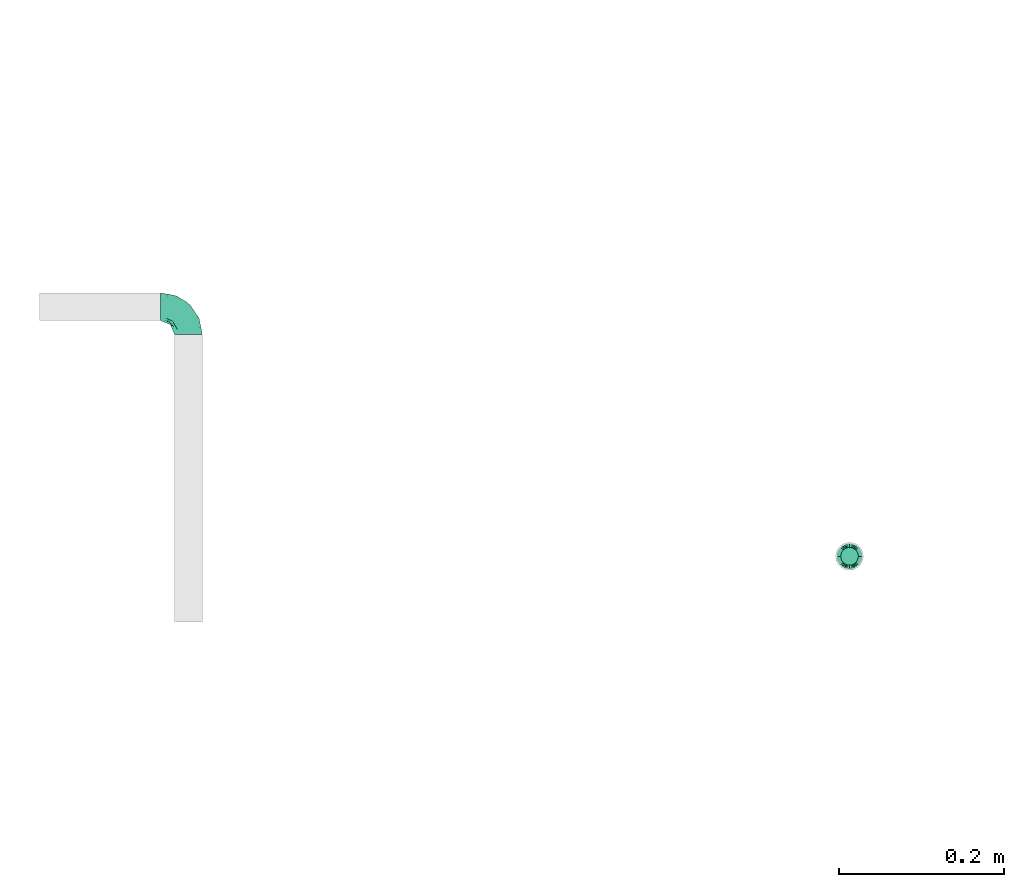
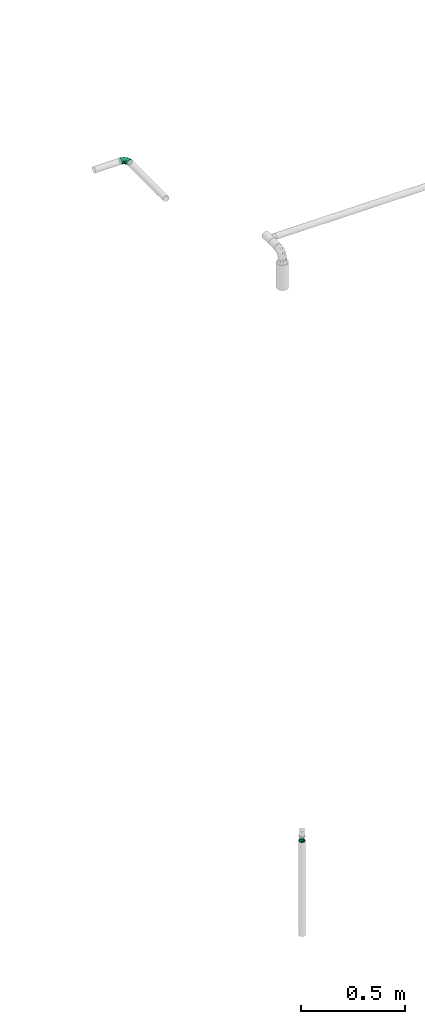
# One storey, part 33 of 63: 2 flow fittings.
"""IFC2X3 building model written with IfcOpenShell, lengths in millimetres."""

import ifcopenshell
import ifcopenshell.guid

model = None  # the IFC model being written
_history = None  # IfcOwnerHistory: only IFC2X3 demands one
_inside = {}  # id of a spatial element -> (the spatial element, [elements in it])
_under = {}  # id of a project, library or spatial element -> (it, [spatial elements below it])
_declared = {}  # id of a project -> (the project, [libraries it declares])
_typed = {}  # id of a type object -> (the type object, [elements of that type])
_made_of = {}  # id of a material, layer set ... -> (it, [elements and type objects made of it])


def new_model(schema):
    """Start an empty IFC model of exactly this schema.

    Asked for "IFC4X3", IfcOpenShell would pick the latest addendum, in which some entities
    have other attributes; the version numbers below select the first issue.
    IFC2X3 requires an IfcOwnerHistory on every rooted entity: one is made here for all.
    """
    global model, _history
    if schema == "IFC4X3":
        model = ifcopenshell.file(schema_version=(4, 3, 0, 0))
    else:
        model = ifcopenshell.file(schema=schema)
    _inside.clear()
    _under.clear()
    _declared.clear()
    _typed.clear()
    _made_of.clear()
    _history = None
    if model.schema == "IFC2X3":
        org = make("IfcOrganization", Name="unknown")
        user = make(
            "IfcPersonAndOrganization",
            ThePerson=make("IfcPerson", FamilyName="unknown"),
            TheOrganization=org,
        )
        app = make(
            "IfcApplication",
            ApplicationDeveloper=org,
            Version="unknown",
            ApplicationFullName="unknown",
            ApplicationIdentifier="unknown",
        )
        _history = make(
            "IfcOwnerHistory",
            OwningUser=user,
            OwningApplication=app,
            ChangeAction="ADDED",
            CreationDate=0,
        )
    return model


def make(cls, **values):
    """One entity of the class cls with the attributes given. An attribute that is None is left unset."""
    return model.create_entity(
        cls, **{name: value for name, value in values.items() if value is not None}
    )


def entity(cls, *values):
    """Any entity or typed value of the class cls, its attributes in the order of the schema. None: left unset."""
    e = model.create_entity(cls)
    for i, value in enumerate(values):
        if value is not None:
            e[i] = value
    return e


def rooted(cls, **values):
    """An entity with a GlobalId (a new one), such as an element, a storey or a relation."""
    return make(cls, GlobalId=ifcopenshell.guid.new(), OwnerHistory=_history, **values)


def si_unit(unit_type, name, prefix=None):
    """IfcSIUnit, for example si_unit("LENGTHUNIT", "METRE", prefix="MILLI")."""
    return make("IfcSIUnit", UnitType=unit_type, Prefix=prefix, Name=name)


def converted_unit(unit_type, name, factor, base, dimensions=None, offset=None):
    """IfcConversionBasedUnit, such as the inch: factor (a typed value) times the base unit."""
    return make(
        "IfcConversionBasedUnit"
        if offset is None
        else "IfcConversionBasedUnitWithOffset",
        ConversionOffset=offset,
        Dimensions=None
        if dimensions is None
        else entity("IfcDimensionalExponents", *dimensions),
        UnitType=unit_type,
        Name=name,
        ConversionFactor=make(
            "IfcMeasureWithUnit", ValueComponent=factor, UnitComponent=base
        ),
    )


def derived_unit(unit_type, elements):
    """IfcDerivedUnit: a product of units, each with its exponent."""
    return make(
        "IfcDerivedUnit",
        Elements=[
            make("IfcDerivedUnitElement", Unit=unit, Exponent=power)
            for unit, power in elements
        ],
        UnitType=unit_type,
    )


def assignment(units):
    """IfcUnitAssignment: the units of a project."""
    return None if units is None else make("IfcUnitAssignment", Units=units)


def point(xyz):
    """IfcCartesianPoint."""
    return None if xyz is None else make("IfcCartesianPoint", Coordinates=xyz)


def direction(xyz):
    """IfcDirection."""
    return None if xyz is None else make("IfcDirection", DirectionRatios=xyz)


def frame(location, z_axis=None, x_axis=None):
    """IfcAxis2Placement3D, a coordinate frame: its origin and axes. An axis left out is left unset."""
    return make(
        "IfcAxis2Placement3D",
        Location=point(location),
        Axis=direction(z_axis),
        RefDirection=direction(x_axis),
    )


def origin_with_axes():
    """The frame at (0, 0, 0) with the z axis (0, 0, 1) and the x axis (1, 0, 0) written out."""
    return frame((0.0, 0.0, 0.0), z_axis=(0.0, 0.0, 1.0), x_axis=(1.0, 0.0, 0.0))


def place(relative_to, where):
    """IfcLocalPlacement: puts the frame where relative to a parent placement (None: the world)."""
    return make(
        "IfcLocalPlacement", PlacementRelTo=relative_to, RelativePlacement=where
    )


def context(
    kind, dimensions, precision=None, world=None, true_north=None, identifier=None
):
    """IfcGeometricRepresentationContext, for example the 3D "Model" context."""
    return make(
        "IfcGeometricRepresentationContext",
        ContextIdentifier=identifier,
        ContextType=kind,
        CoordinateSpaceDimension=dimensions,
        Precision=precision,
        WorldCoordinateSystem=world,
        TrueNorth=true_north,
    )


def subcontext(parent, identifier, kind, view, scale=None):
    """IfcGeometricRepresentationSubContext, for example "Body" below "Model"."""
    return make(
        "IfcGeometricRepresentationSubContext",
        ContextIdentifier=identifier,
        ContextType=kind,
        ParentContext=parent,
        TargetScale=scale,
        TargetView=view,
    )


def project(units=None, contexts=None):
    """IfcProject with its units and contexts."""
    return rooted(
        "IfcProject",
        Name="project",
        RepresentationContexts=contexts,
        UnitsInContext=assignment(units),
    )


def spatial(cls, under=None, at=None, **own):
    """A site, building, storey or space (cls), placed at a placement, below another one or the project."""
    s = rooted(cls, ObjectPlacement=at, **own)
    if under is not None:
        _under.setdefault(under.id(), (under, []))[1].append(s)
    return s


def faces_of(points, faces, orient=None, outer=None):
    """IfcFace entities. A face is a list of loops; a loop is a list of indices into points, from 0.

    orient and outer hold one flag for each loop. By default every Orientation is true, the
    first loop of a face is its IfcFaceOuterBound and the others are IfcFaceBound.
    """
    made = []
    for i, loops in enumerate(faces):
        bounds = []
        for j, loop in enumerate(loops):
            is_outer = j == 0 if outer is None else outer[i][j]
            bounds.append(
                make(
                    "IfcFaceOuterBound" if is_outer else "IfcFaceBound",
                    Bound=make("IfcPolyLoop", Polygon=[points[k] for k in loop]),
                    Orientation=True if orient is None else orient[i][j],
                )
            )
        made.append(make("IfcFace", Bounds=bounds))
    return made


def open_shell(faces, orient=None, outer=None):
    """The faces of one IfcOpenShell. surface_model builds it on its shared points."""
    return ("IfcOpenShell", faces, orient, outer)


def surface_model(cls, points, shells):
    """IfcFaceBasedSurfaceModel or IfcShellBasedSurfaceModel (cls): surfaces that need not close."""
    shared = [point(p) for p in points]
    made = [make(c, CfsFaces=faces_of(shared, fs, o, b)) for c, fs, o, b in shells]
    if cls == "IfcFaceBasedSurfaceModel":
        return make(cls, FbsmFaces=made)
    return make(cls, SbsmBoundary=made)


def shape(context_of_items, identifier, shape_type, items):
    """IfcShapeRepresentation: the items that make up one representation, for example the "Body"."""
    return make(
        "IfcShapeRepresentation",
        ContextOfItems=context_of_items,
        RepresentationIdentifier=identifier,
        RepresentationType=shape_type,
        Items=items,
    )


def source(mapping_origin, context_of_items, identifier, shape_type, items):
    """IfcRepresentationMap: a shape defined once, which mapped items show again and again."""
    return make(
        "IfcRepresentationMap",
        MappingOrigin=mapping_origin,
        MappedRepresentation=shape(context_of_items, identifier, shape_type, items),
    )


def transform(
    local_origin,
    x_axis=None,
    y_axis=None,
    z_axis=None,
    scale=None,
    scale2=None,
    scale3=None,
    uniform=True,
):
    """IfcCartesianTransformationOperator3D, or its non-uniform kind. x_axis, y_axis, z_axis: its Axis1, 2, 3."""
    if uniform:
        return make(
            "IfcCartesianTransformationOperator3D",
            Axis1=direction(x_axis),
            Axis2=direction(y_axis),
            LocalOrigin=point(local_origin),
            Scale=scale,
            Axis3=direction(z_axis),
        )
    return make(
        "IfcCartesianTransformationOperator3DnonUniform",
        Axis1=direction(x_axis),
        Axis2=direction(y_axis),
        LocalOrigin=point(local_origin),
        Scale=scale,
        Axis3=direction(z_axis),
        Scale2=scale2,
        Scale3=scale3,
    )


def mapped(mapping_source, mapping_target):
    """IfcMappedItem: shows the shape of a source again, moved by a transform."""
    return make(
        "IfcMappedItem", MappingSource=mapping_source, MappingTarget=mapping_target
    )


def made_of(thing, what):
    """Note that an element or type object is made of a material, layer set ...; save() writes the relation."""
    if what is not None:
        _made_of.setdefault(what.id(), (what, []))[1].append(thing)
    return thing


def type_object(cls, material=None, **own):
    """A type object (cls), such as IfcWallType, which elements share."""
    return made_of(rooted(cls, **own), material)


def element(
    cls,
    number,
    at=None,
    inside=None,
    cuts=None,
    type_object=None,
    material=None,
    context=None,
    identifier="Body",
    shape_type=None,
    held_by="IfcProductDefinitionShape",
    body=None,
    shapes=None,
    **own,
):
    """One element of the class cls, such as IfcWall. Its Tag is "e" and its number.

    at: its placement. inside: the storey or other place that contains it. cuts: it is an
    opening in that element (IfcRelVoidsElement). A single representation is given by context,
    identifier, shape_type and body (its items); several are given by shapes. held_by: the class
    of the entity that holds the representations. save() writes the other relations.
    """
    e = rooted(cls, Tag="e%d" % number, ObjectPlacement=at, **own)
    if body is not None:
        shapes = [shape(context, identifier, shape_type, body)]
    if shapes is not None:
        e.Representation = make(held_by, Representations=shapes)
    if inside is not None:
        _inside.setdefault(inside.id(), (inside, []))[1].append(e)
    if cuts is not None:
        rooted(
            "IfcRelVoidsElement", RelatingBuildingElement=cuts, RelatedOpeningElement=e
        )
    if type_object is not None:
        _typed.setdefault(type_object.id(), (type_object, []))[1].append(e)
    return made_of(e, material)


def aggregate(whole, parts):
    """IfcRelAggregates: a whole, such as a stair, and the parts it consists of."""
    return rooted("IfcRelAggregates", RelatingObject=whole, RelatedObjects=parts)


def save(model, path):
    """Write the relations noted so far, then the file.

    IfcRelAggregates (storeys below a building ...), IfcRelContainedInSpatialStructure (elements
    in a storey), IfcRelDefinesByType, IfcRelAssociatesMaterial and IfcRelDeclares: one each for
    every whole, place, type object, material and project.
    """
    for whole, parts in _under.values():
        aggregate(whole, parts)
    for where, things in _inside.values():
        rooted(
            "IfcRelContainedInSpatialStructure",
            RelatedElements=things,
            RelatingStructure=where,
        )
    for kind, things in _typed.values():
        rooted("IfcRelDefinesByType", RelatedObjects=things, RelatingType=kind)
    for what, things in _made_of.values():
        rooted("IfcRelAssociatesMaterial", RelatedObjects=things, RelatingMaterial=what)
    for by, libraries in _declared.values():
        rooted("IfcRelDeclares", RelatingContext=by, RelatedDefinitions=libraries)
    model.write(path)


model = new_model("IFC2X3")

# Units and contexts
model_context = context("Model", 3, precision=0.01, world=frame((0.0, 4.29681676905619e-09, 0.0)), true_north=direction((4.01073788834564e-13, 1.0)))
plan_context = context("Plan", 3, precision=0.01, world=frame((0.0, 4.29681676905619e-09, 0.0)), true_north=direction((4.01073788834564e-13, 1.0)))
body_context = subcontext(model_context, "Body", "Model", "MODEL_VIEW")
ifc_project = project(units=[converted_unit("PLANEANGLEUNIT", "DEGREE", entity("IfcPositiveLengthMeasure", 0.0174532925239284), si_unit("PLANEANGLEUNIT", "RADIAN"), dimensions=[0, 0, 0, 0, 0, 0, 0]), si_unit("AREAUNIT", "SQUARE_METRE"), si_unit("LENGTHUNIT", "METRE", prefix="MILLI"), si_unit("MASSUNIT", "GRAM", prefix="KILO"), si_unit("POWERUNIT", "WATT"), si_unit("PRESSUREUNIT", "PASCAL", prefix="KILO"), si_unit("FORCEUNIT", "NEWTON", prefix="KILO"), si_unit("ELECTRICVOLTAGEUNIT", "VOLT"), si_unit("ELECTRICCURRENTUNIT", "AMPERE"), si_unit("THERMODYNAMICTEMPERATUREUNIT", "DEGREE_CELSIUS"), si_unit("TIMEUNIT", "SECOND"), si_unit("VOLUMEUNIT", "CUBIC_METRE"), derived_unit("LINEARVELOCITYUNIT", [(si_unit("LENGTHUNIT", "METRE"), 1), (si_unit("TIMEUNIT", "SECOND"), -1)]), derived_unit("VOLUMETRICFLOWRATEUNIT", [(si_unit("VOLUMEUNIT", "CUBIC_METRE"), 1), (si_unit("TIMEUNIT", "SECOND"), -1)]), derived_unit("THERMALTRANSMITTANCEUNIT", [(si_unit("POWERUNIT", "WATT"), 1), (si_unit("THERMODYNAMICTEMPERATUREUNIT", "KELVIN"), -1), (si_unit("AREAUNIT", "SQUARE_METRE"), -1)]), derived_unit("SOUNDPRESSUREUNIT", [(si_unit("PRESSUREUNIT", "PASCAL"), 1)])], contexts=[model_context, plan_context])

# Site, building, storey
site_placement = place(None, frame((0.0, -4.29681676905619e-09, 0.0), z_axis=(0.0, 0.0, 1.0), x_axis=(1.0, 0.0, 0.0)))
site = spatial("IfcSite", under=ifc_project, at=site_placement, CompositionType="ELEMENT")
building_placement = place(site_placement, frame((0.0, 4.29681676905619e-09, 0.0), z_axis=(0.0, 0.0, 1.0), x_axis=(1.0, 0.0, 0.0)))
building = spatial("IfcBuilding", under=site, at=building_placement, Name="mc-building", CompositionType="ELEMENT")
storey_placement = place(building_placement, frame((0.0, 0.0, 207370.0), z_axis=(0.0, 0.0, 1.0), x_axis=(1.0, 0.0, 0.0)))
storey = spatial("IfcBuildingStorey", under=building, at=storey_placement, Name="Nivå E", CompositionType="ELEMENT", Elevation=207370.0)

# Flow fittings
pipe_fitting_type_1 = type_object("IfcPipeFittingType", Name="magi_pipe_fe_reducer_centric_short_NOR", PredefinedType="TRANSITION")
shared_shape_1 = source(origin_with_axes(), body_context, "Body", "SurfaceModel", [
    surface_model("IfcShellBasedSurfaceModel", [(14.4, 5.35, -9.26647), (14.4, 0.0, -10.7), (14.4, 2.76936, -10.33541), (14.4, 10.33541, -2.76936), (14.4, 7.56604, -7.56604), (14.4, -10.33541, -2.76936), (14.4, 9.26647, -5.35), (14.4, 0.0, 10.7), (14.4, -5.35, -9.26647), (14.4, -2.76936, -10.33541), (14.4, -7.56604, -7.56604), (14.4, -9.26647, -5.35), (14.4, 10.7, 0.0), (14.4, 10.33541, 2.76936), (14.4, 9.26647, 5.35), (14.4, 7.56604, 7.56604), (14.4, 2.76936, 10.33541), (14.4, 5.35, 9.26647), (14.4, -10.33541, 2.76936), (14.4, -7.56604, 7.56604), (14.4, -9.26647, 5.35), (14.4, -10.7, 0.0), (14.4, -2.76936, 10.33541), (14.4, -5.35, 9.26647), (12.4, 2.76936, 10.33541), (12.4, -10.33541, -2.76936), (12.4, 0.0, 10.7), (12.4, 5.35, 9.26647), (12.4, 7.56604, 7.56604), (12.4, 9.26647, 5.35), (12.4, 10.33541, 2.76936), (12.4, -10.33541, 2.76936), (12.4, -2.76936, 10.33541), (12.4, -7.56604, 7.56604), (12.4, -5.35, 9.26647), (12.4, -9.26647, 5.35), (12.4, -10.7, 0.0), (12.4, 10.33541, -2.76936), (12.4, 5.35, -9.26647), (12.4, 9.26647, -5.35), (12.4, 7.56604, -7.56604), (12.4, 2.76936, -10.33541), (12.4, -9.26647, -5.35), (12.4, -5.35, -9.26647), (12.4, -7.56604, -7.56604), (12.4, 0.0, -10.7), (12.4, -2.76936, -10.33541), (12.4, 10.7, 0.0), (-2.0, 11.9501, 11.9501), (-2.0, 0.0, 16.9), (-2.0, 4.37404, 16.32415), (-2.0, 8.45, 14.63583), (-2.0, 14.63583, 8.45), (-2.0, 16.32415, 4.37404), (-2.0, -16.32415, 4.37404), (-2.0, -8.45, 14.63583), (-2.0, -14.63583, 8.45), (-2.0, -11.9501, 11.9501), (-2.0, -4.37404, 16.32415), (-2.0, -16.32415, -4.37404), (-2.0, -16.9, 0.0), (-2.0, -8.45, -14.63583), (-2.0, 16.32415, -4.37404), (-2.0, 11.9501, -11.9501), (-2.0, 14.63583, -8.45), (-2.0, 8.45, -14.63583), (-2.0, 4.37404, -16.32415), (-2.0, 0.0, -16.9), (-2.0, -11.9501, -11.9501), (-2.0, -14.63583, -8.45), (-2.0, -4.37404, -16.32415), (-2.0, 16.9, 0.0), (0.0, 4.37404, -16.32415), (0.0, 8.45, -14.63583), (0.0, 11.9501, -11.9501), (0.0, 0.0, -16.9), (0.0, 16.32415, -4.37404), (0.0, 16.32415, 4.37404), (0.0, 14.63583, -8.45), (0.0, -8.45, -14.63583), (0.0, -4.37404, -16.32415), (0.0, -11.9501, -11.9501), (0.0, -16.32415, -4.37404), (0.0, -14.63583, -8.45), (0.0, -16.32415, 4.37404), (0.0, 16.9, 0.0), (0.0, 14.63583, 8.45), (0.0, 11.9501, 11.9501), (0.0, 4.37404, 16.32415), (0.0, 8.45, 14.63583), (0.0, 0.0, 16.9), (0.0, -14.63583, 8.45), (0.0, -16.9, 0.0), (0.0, -8.45, 14.63583), (0.0, -11.9501, 11.9501), (0.0, -4.37404, 16.32415), (12.4, 9.3625, -2.31662), (0.0, 14.42505, -5.97505), (0.0, 15.66253, -2.98753), (12.4, -6.6875, -6.94985), (0.0, -13.18758, -8.96258), (0.0, 2.98753, -15.66253), (12.4, 0.0, -9.26647), (12.4, 6.6875, -6.94985), (0.0, 8.96258, -13.18758), (12.4, -9.3625, -2.31662), (0.0, -15.66253, -2.98753), (0.0, -14.42505, -5.97505), (0.0, 5.97505, -14.42505), (0.0, -2.98753, -15.66253), (0.0, -8.96258, -13.18758), (0.0, 13.18758, -8.96258), (12.4, 8.025, -4.63324), (12.4, -2.675, -9.26647), (12.4, 2.675, -9.26647), (0.0, -5.97505, -14.42505), (12.4, -8.025, -4.63324), (12.4, -9.3625, 2.31662), (0.0, -14.42505, 5.97505), (0.0, -15.66253, 2.98753), (12.4, 6.6875, 6.94985), (0.0, 13.18758, 8.96258), (0.0, -2.98753, 15.66253), (12.4, 0.0, 9.26647), (12.4, -6.6875, 6.94985), (0.0, -8.96258, 13.18758), (12.4, 9.3625, 2.31662), (0.0, 15.66253, 2.98753), (0.0, 14.42505, 5.97505), (0.0, -5.97505, 14.42505), (0.0, 2.98753, 15.66253), (0.0, 8.96258, 13.18758), (0.0, -13.18758, 8.96258), (12.4, -8.025, 4.63324), (12.4, 2.675, 9.26647), (12.4, -2.675, 9.26647), (0.0, 5.97505, 14.42505), (12.4, 8.025, 4.63324)], [open_shell([[[0, 1, 2]], [[3, 0, 4]], [[5, 0, 3]], [[3, 4, 6]], [[7, 5, 3]], [[1, 8, 9]], [[1, 0, 8]], [[10, 5, 11]], [[5, 10, 8]], [[0, 5, 8]], [[3, 12, 13]], [[13, 14, 15]], [[13, 15, 16]], [[7, 3, 16]], [[16, 15, 17]], [[7, 18, 5]], [[18, 19, 20]], [[21, 5, 18]], [[19, 22, 23]], [[22, 19, 18]], [[7, 22, 18]], [[13, 16, 3]], [[24, 25, 26]], [[27, 25, 24]], [[28, 29, 30]], [[28, 25, 27]], [[31, 26, 25]], [[32, 33, 34]], [[33, 32, 31]], [[33, 31, 35]], [[32, 26, 31]], [[31, 25, 36]], [[30, 37, 28]], [[25, 28, 37]], [[38, 37, 39]], [[37, 38, 25]], [[38, 39, 40]], [[41, 25, 38]], [[42, 43, 44]], [[43, 42, 25]], [[43, 45, 46]], [[43, 25, 41]], [[41, 45, 43]], [[37, 30, 47]], [[25, 5, 36]], [[42, 11, 25]], [[8, 44, 43]], [[42, 44, 10]], [[9, 43, 46]], [[25, 11, 5]], [[5, 21, 36]], [[9, 8, 43]], [[10, 44, 8]], [[10, 11, 42]], [[1, 9, 46]], [[46, 45, 1]], [[41, 2, 45]], [[38, 0, 41]], [[6, 40, 39]], [[38, 40, 4]], [[3, 39, 37]], [[38, 4, 0]], [[0, 2, 41]], [[12, 3, 37]], [[6, 39, 3]], [[6, 4, 40]], [[47, 12, 37]], [[45, 2, 1]], [[30, 13, 47]], [[29, 14, 30]], [[17, 28, 27]], [[29, 28, 15]], [[16, 27, 24]], [[30, 14, 13]], [[13, 12, 47]], [[16, 17, 27]], [[15, 28, 17]], [[15, 14, 29]], [[7, 16, 24]], [[24, 26, 7]], [[32, 22, 26]], [[34, 23, 32]], [[20, 33, 35]], [[34, 33, 19]], [[18, 35, 31]], [[34, 19, 23]], [[23, 22, 32]], [[21, 18, 31]], [[20, 35, 18]], [[20, 19, 33]], [[36, 21, 31]], [[26, 22, 7]], [[48, 49, 50]], [[48, 50, 51]], [[48, 52, 53]], [[48, 53, 49]], [[49, 53, 54]], [[55, 56, 57]], [[55, 58, 49]], [[56, 55, 49]], [[49, 54, 56]], [[54, 59, 60]], [[54, 53, 61]], [[53, 62, 63]], [[63, 62, 64]], [[63, 65, 66]], [[61, 53, 63]], [[67, 63, 66]], [[59, 68, 69]], [[68, 59, 61]], [[61, 67, 70]], [[59, 54, 61]], [[63, 67, 61]], [[53, 71, 62]], [[72, 73, 74]], [[75, 72, 74]], [[74, 76, 77]], [[76, 74, 78]], [[74, 77, 79]], [[75, 79, 80]], [[75, 74, 79]], [[81, 82, 83]], [[82, 81, 79]], [[79, 84, 82]], [[77, 76, 85]], [[77, 86, 87]], [[77, 87, 88]], [[88, 84, 79]], [[88, 87, 89]], [[84, 88, 90]], [[90, 91, 84]], [[92, 82, 84]], [[91, 93, 94]], [[91, 90, 93]], [[93, 90, 95]], [[79, 77, 88]], [[59, 82, 60]], [[69, 83, 59]], [[79, 68, 61]], [[69, 68, 81]], [[80, 61, 70]], [[59, 83, 82]], [[82, 92, 60]], [[80, 79, 61]], [[81, 68, 79]], [[81, 83, 69]], [[75, 80, 70]], [[70, 67, 75]], [[66, 72, 67]], [[65, 73, 66]], [[78, 63, 64]], [[65, 63, 74]], [[76, 64, 62]], [[65, 74, 73]], [[73, 72, 66]], [[85, 76, 62]], [[78, 64, 76]], [[78, 74, 63]], [[71, 85, 62]], [[67, 72, 75]], [[53, 77, 71]], [[52, 86, 53]], [[89, 48, 51]], [[52, 48, 87]], [[88, 51, 50]], [[53, 86, 77]], [[77, 85, 71]], [[88, 89, 51]], [[87, 48, 89]], [[87, 86, 52]], [[90, 88, 50]], [[50, 49, 90]], [[58, 95, 49]], [[55, 93, 58]], [[91, 57, 56]], [[55, 57, 94]], [[84, 56, 54]], [[55, 94, 93]], [[93, 95, 58]], [[92, 84, 54]], [[91, 56, 84]], [[91, 94, 57]], [[60, 92, 54]], [[49, 95, 90]], [[27, 34, 47]], [[47, 34, 43]], [[43, 38, 47]], [[43, 34, 36]], [[90, 87, 94]], [[92, 94, 87]], [[87, 74, 92]], [[75, 92, 74]], [[81, 92, 75]], [[74, 87, 85]], [[96, 97, 98]], [[81, 99, 100]], [[101, 102, 75]], [[98, 85, 47]], [[74, 103, 104]], [[104, 103, 38]], [[105, 106, 107]], [[38, 108, 104]], [[102, 109, 75]], [[110, 99, 81]], [[47, 96, 98]], [[103, 111, 112]], [[109, 102, 113]], [[36, 92, 106]], [[102, 101, 114]], [[110, 115, 43]], [[96, 112, 97]], [[107, 116, 105]], [[36, 106, 105]], [[113, 115, 109]], [[43, 115, 113]], [[116, 107, 100]], [[108, 38, 114]], [[111, 103, 74]], [[111, 97, 112]], [[99, 110, 43]], [[116, 100, 99]], [[101, 108, 114]], [[117, 118, 119]], [[87, 120, 121]], [[122, 123, 90]], [[119, 92, 36]], [[94, 124, 125]], [[125, 124, 34]], [[126, 127, 128]], [[34, 129, 125]], [[123, 130, 90]], [[131, 120, 87]], [[36, 117, 119]], [[124, 132, 133]], [[130, 123, 134]], [[47, 85, 127]], [[123, 122, 135]], [[131, 136, 27]], [[117, 133, 118]], [[128, 137, 126]], [[47, 127, 126]], [[134, 136, 130]], [[27, 136, 134]], [[137, 128, 121]], [[129, 34, 135]], [[132, 124, 94]], [[132, 118, 133]], [[120, 131, 27]], [[137, 121, 120]], [[122, 129, 135]]])]),
])
flow_fitting_1_placement = place(storey_placement, frame((717018.09202, 441297.3941, 3018.36794), z_axis=(0.0, -1.0, 0.0), x_axis=(0.0, 0.0, 1.0)))
element("IfcFlowFitting", 1, at=flow_fitting_1_placement, inside=storey, type_object=pipe_fitting_type_1, Name="magi_pipe_fe_reducer_centric_short_NOR", context=body_context, shape_type="MappedRepresentation", body=[
    mapped(shared_shape_1, transform((0.0, 0.0, 0.0), scale=1.0)),
])
pipe_fitting_type_2 = type_object("IfcPipeFittingType", Name="magi_pipe_fe_elbow_short_001", PredefinedType="BEND")
shared_shape_2 = source(origin_with_axes(), body_context, "Body", "SurfaceModel", [
    surface_model("IfcShellBasedSurfaceModel", [(-33.8, 8.45, -14.63583), (-33.8, 4.37404, -16.32415), (-33.8, 11.9501, -11.9501), (-33.8, -11.9501, -11.9501), (-33.8, -14.63583, -8.45), (-33.8, -8.45, -14.63583), (-33.8, 0.0, -16.9), (-33.8, -4.37404, -16.32415), (-33.8, -4.37404, 16.32415), (-33.8, 0.0, 16.9), (-33.8, -8.45, 14.63583), (-33.8, 16.32415, -4.37404), (-33.8, 14.63583, -8.45), (-33.8, -16.32415, -4.37404), (-33.8, -16.9, 0.0), (-33.8, -16.32415, 4.37404), (-33.8, 11.9501, 11.9501), (-33.8, 14.63583, 8.45), (-33.8, 16.32415, 4.37404), (-33.8, 4.37404, 16.32415), (-33.8, 8.45, 14.63583), (-33.8, -14.63583, 8.45), (-33.8, -11.9501, 11.9501), (-33.8, 16.9, 0.0), (-11.9501, 33.8, -11.9501), (0.0, 33.8, -16.9), (-4.37404, 33.8, -16.32415), (-8.45, 33.8, -14.63583), (-14.63583, 33.8, -8.45), (-16.32415, 33.8, -4.37404), (14.63583, 33.8, -8.45), (8.45, 33.8, 14.63583), (16.32415, 33.8, -4.37404), (8.45, 33.8, -14.63583), (11.9501, 33.8, -11.9501), (4.37404, 33.8, -16.32415), (16.32415, 33.8, 4.37404), (16.9, 33.8, 0.0), (-11.9501, 33.8, 11.9501), (-16.32415, 33.8, 4.37404), (-14.63583, 33.8, 8.45), (-8.45, 33.8, 14.63583), (-4.37404, 33.8, 16.32415), (11.9501, 33.8, 11.9501), (14.63583, 33.8, 8.45), (0.0, 33.8, 16.9), (4.37404, 33.8, 16.32415), (-16.9, 33.8, 0.0), (-24.79389, -13.12945, 9.48721), (-22.19287, -9.75018, 12.59315), (-24.09897, -14.97035, 0.0), (-14.93934, -10.76256, 8.5297), (-22.46095, -14.75051, 5.27077), (14.75051, 22.46094, 5.27077), (11.9251, 13.23888, 4.33236), (13.04069, 14.39795, 0.0), (7.71387, 13.68847, 11.55891), (9.75018, 22.19287, 12.59315), (4.10169, 13.0571, 14.04018), (-24.84007, -6.39063, 15.2048), (-25.81779, -2.23879, 16.61097), (-23.66549, 2.59054, 16.87119), (-26.50418, 14.06512, 11.08152), (-24.21253, 17.66365, 7.72657), (-29.58514, 15.86957, 7.00283), (-6.17382, -7.5455, 0.0), (-13.23888, -11.9251, 4.33236), (-14.39795, -13.04069, 0.0), (-17.81434, 18.87373, 11.97104), (-6.30846, 29.15138, 15.82987), (-2.31622, 25.28002, 16.85849), (-29.23923, 10.23435, 13.77053), (-1.45439, -2.85688, 7.61475), (-0.28326, 0.34872, 10.09509), (-5.74484, -4.04709, 10.4122), (-4.41137, 11.31918, 16.59407), (-8.39727, 3.10034, 15.7812), (-1.72649, 9.1306, 15.53089), (-17.39909, 24.75344, 7.64977), (-26.19233, 20.0512, 0.0), (-28.14518, 17.29657, 4.25857), (-26.05147, 6.6281, 15.96447), (-5.87354, 16.61944, 16.86968), (-12.51807, 12.51807, 16.48937), (-10.06312, 7.38516, 16.81295), (-3.01882, 3.01882, 13.81718), (-13.0571, -4.10169, 14.04018), (-16.82553, -0.15166, 16.38038), (10.76256, 14.93934, 8.5297), (13.12945, 24.79389, 9.48721), (6.39063, 24.84007, 15.2048), (2.23879, 25.81779, 16.61097), (-13.68847, -7.71387, 11.55891), (14.97035, 24.09897, 0.0), (-7.30894, 22.89991, 16.09489), (-10.67958, 26.17414, 14.008), (-12.78295, 18.26924, 15.06066), (-13.88562, 22.45231, 12.93244), (-18.04944, 15.16501, 14.04434), (-23.11658, 20.08178, 4.02986), (-21.84989, 21.84989, 0.0), (-18.55817, 25.48277, 3.93065), (-13.95142, 26.94732, 11.03289), (-18.57098, 7.23906, 16.59756), (-16.58335, 4.14122, 16.89279), (-17.96666, 11.46709, 15.63151), (-9.84453, 17.54304, 16.18938), (0.15166, 16.82553, 16.38038), (-23.27207, 11.47201, 14.23154), (3.84842, 5.86994, 10.70473), (-8.0212, -7.54413, 7.93275), (1.00345, -2.19508, 4.57414), (5.13203, 3.01004, 5.90201), (5.24161, 1.7543, 2.53265), (8.70457, 7.04947, 3.99182), (-20.0512, 26.19233, 0.0), (8.4852, 8.76699, 7.09296), (-4.55488, -6.72064, 4.90681), (2.05031, -2.05031, 0.0), (7.5455, 6.17382, 0.0), (-26.75399, 2.1369, -16.845), (-14.61995, 24.73803, -11.27736), (-28.45274, -13.45335, -9.81895), (-26.00469, 6.63555, -15.96645), (-23.06726, 20.04573, -4.26202), (-13.80647, -4.26506, -14.17873), (-14.67501, -0.21081, -16.07388), (-6.7902, -0.2828, -13.8478), (-24.53586, 11.08096, -14.13417), (-26.72048, 14.00837, -11.05776), (10.0967, 24.44989, -12.75976), (5.83237, 21.40218, -15.03047), (6.66249, 28.54238, -15.38093), (-20.38182, 15.48705, -12.74596), (12.53268, 21.23441, -9.15363), (12.54494, 15.67504, -5.54878), (9.7522, 12.89279, -8.66343), (-15.65186, 19.64213, -13.01327), (-12.03528, 20.66498, -14.67665), (-15.61907, 15.61906, -14.83879), (-25.56551, -15.26206, 0.0), (-24.65452, -15.12934, -5.50955), (13.45335, 28.45274, -9.81895), (15.12934, 24.65452, -5.50955), (-7.35442, -8.31014, -5.65563), (-15.67504, -12.54494, -5.54878), (-24.44989, -10.0967, -12.75976), (0.16522, 0.41303, -9.71728), (-5.70658, -5.33066, -8.89288), (-5.13869, -2.37198, -11.53565), (-21.23441, -12.53268, -9.15363), (0.71146, 7.93863, -14.09382), (0.21081, 14.67501, -16.07388), (3.49291, 14.42772, -14.76381), (-24.89911, -2.13088, -16.591), (-28.54238, -6.66249, -15.38093), (-18.44386, -7.71663, -13.26957), (2.13088, 24.89911, -16.591), (-28.64342, 17.44413, -2.89318), (1.70017, -1.28722, -5.09504), (-16.57067, 26.81947, -7.36596), (-17.69055, 27.4263, -3.76405), (-12.89279, -9.7522, -8.66343), (-5.96611, 5.96611, -15.95814), (-20.53709, 20.09345, -8.28985), (-2.1369, 26.75399, -16.845), (-6.89872, 24.58781, -16.02578), (-10.60739, 26.53157, -13.98044), (-21.40218, -5.83237, -15.03047), (2.93192, 5.89627, -11.55917), (6.89393, 12.61842, -11.82233), (5.58056, 5.95325, -8.79455), (-3.99512, 18.61798, -16.89635), (8.31014, 7.35442, -5.65563), (-9.1383, 9.86148, -16.89041), (-9.99983, 16.02119, -16.39699), (-16.68576, 9.78031, -16.34199), (-27.01915, 16.61158, -7.12979), (15.26206, 25.56551, 0.0), (-18.61798, 3.99512, -16.89635), (-19.37495, 27.82495, 0.0), (-12.61842, -6.89393, -11.82233), (-18.84705, 19.14018, -10.96545)], [open_shell([[[0, 1, 2]], [[3, 4, 5]], [[6, 7, 5]], [[8, 9, 10]], [[1, 6, 2]], [[11, 12, 2]], [[4, 2, 6]], [[2, 13, 10]], [[5, 4, 6]], [[2, 4, 13]], [[14, 15, 13]], [[11, 2, 16]], [[11, 17, 18]], [[11, 16, 17]], [[19, 20, 16]], [[16, 2, 10]], [[19, 16, 10]], [[21, 22, 15]], [[22, 13, 15]], [[22, 10, 13]], [[10, 9, 19]], [[11, 18, 23]], [[24, 25, 26]], [[24, 26, 27]], [[24, 28, 29]], [[25, 24, 30]], [[31, 32, 24]], [[33, 30, 34]], [[33, 35, 25]], [[25, 30, 33]], [[32, 30, 24]], [[32, 36, 37]], [[38, 24, 29]], [[39, 40, 29]], [[40, 38, 29]], [[38, 41, 42]], [[38, 31, 24]], [[31, 38, 42]], [[36, 43, 44]], [[36, 32, 43]], [[31, 45, 46]], [[32, 31, 43]], [[42, 45, 31]], [[39, 29, 47]], [[22, 48, 49]], [[15, 14, 50]], [[51, 48, 52]], [[53, 54, 55]], [[48, 22, 21]], [[15, 52, 21]], [[56, 57, 58]], [[49, 10, 22]], [[49, 59, 10]], [[9, 60, 61]], [[62, 63, 64]], [[65, 66, 67]], [[57, 43, 31]], [[62, 68, 63]], [[42, 69, 70]], [[20, 71, 16]], [[8, 60, 9]], [[72, 73, 74]], [[75, 76, 77]], [[16, 62, 17]], [[40, 39, 78]], [[79, 23, 80]], [[64, 18, 17]], [[9, 61, 19]], [[19, 81, 20]], [[82, 83, 84]], [[74, 85, 86]], [[59, 86, 87]], [[88, 89, 57]], [[90, 31, 46]], [[44, 53, 36]], [[46, 45, 91]], [[54, 53, 88]], [[44, 89, 53]], [[92, 86, 49]], [[89, 44, 43]], [[10, 59, 8]], [[53, 55, 93]], [[93, 36, 53]], [[66, 52, 67]], [[94, 82, 70]], [[95, 96, 94]], [[97, 98, 96]], [[79, 99, 100]], [[41, 38, 95]], [[101, 100, 99]], [[68, 78, 63]], [[42, 41, 69]], [[23, 18, 80]], [[95, 94, 69]], [[78, 101, 99]], [[38, 102, 95]], [[70, 45, 42]], [[97, 95, 102]], [[15, 50, 52]], [[90, 57, 31]], [[57, 90, 58]], [[81, 19, 61]], [[103, 104, 84]], [[105, 81, 103]], [[38, 40, 102]], [[106, 96, 83]], [[94, 106, 82]], [[91, 70, 107]], [[71, 62, 16]], [[62, 108, 98]], [[86, 59, 49]], [[67, 52, 50]], [[60, 59, 87]], [[92, 49, 51]], [[86, 85, 76]], [[91, 90, 46]], [[37, 36, 93]], [[107, 77, 58]], [[107, 58, 90]], [[58, 85, 109]], [[110, 74, 92]], [[72, 74, 110]], [[66, 51, 52]], [[72, 111, 112]], [[113, 114, 112]], [[56, 88, 57]], [[52, 48, 21]], [[49, 48, 51]], [[57, 89, 43]], [[53, 89, 88]], [[103, 81, 61]], [[71, 81, 108]], [[18, 64, 80]], [[63, 78, 99]], [[47, 115, 101]], [[101, 115, 100]], [[40, 78, 102]], [[68, 102, 78]], [[97, 96, 95]], [[105, 98, 108]], [[103, 84, 83]], [[107, 70, 82]], [[76, 84, 87]], [[82, 84, 75]], [[70, 91, 45]], [[90, 91, 107]], [[59, 60, 8]], [[61, 60, 87]], [[73, 85, 74]], [[109, 112, 116]], [[103, 61, 104]], [[105, 103, 83]], [[96, 105, 83]], [[81, 105, 108]], [[96, 98, 105]], [[62, 98, 68]], [[61, 87, 104]], [[87, 84, 104]], [[86, 76, 87]], [[77, 76, 85]], [[58, 77, 85]], [[75, 77, 107]], [[82, 75, 107]], [[76, 75, 84]], [[81, 71, 20]], [[62, 71, 108]], [[95, 69, 41]], [[70, 69, 94]], [[62, 64, 17]], [[80, 63, 99]], [[63, 80, 64]], [[80, 99, 79]], [[66, 65, 117]], [[110, 66, 117]], [[112, 114, 116]], [[118, 117, 65]], [[110, 92, 51]], [[112, 111, 113]], [[119, 55, 54]], [[74, 86, 92]], [[58, 109, 56]], [[116, 56, 109]], [[66, 110, 51]], [[72, 110, 117]], [[111, 72, 117]], [[73, 112, 109]], [[117, 118, 111]], [[113, 111, 118]], [[118, 119, 113]], [[114, 119, 54]], [[119, 114, 113]], [[116, 54, 88]], [[54, 116, 114]], [[116, 88, 56]], [[112, 73, 72]], [[85, 73, 109]], [[78, 39, 101]], [[47, 101, 39]], [[102, 68, 97]], [[97, 68, 98]], [[82, 106, 83]], [[94, 96, 106]], [[1, 120, 6]], [[28, 24, 121]], [[3, 122, 4]], [[0, 123, 1]], [[100, 124, 79]], [[125, 126, 127]], [[128, 2, 129]], [[130, 131, 132]], [[128, 129, 133]], [[134, 135, 136]], [[137, 138, 139]], [[128, 0, 2]], [[67, 140, 141]], [[134, 142, 143]], [[141, 13, 4]], [[144, 65, 145]], [[146, 3, 5]], [[147, 148, 149]], [[145, 141, 150]], [[151, 152, 153]], [[154, 7, 6]], [[5, 155, 146]], [[150, 146, 156]], [[155, 5, 7]], [[143, 135, 134]], [[35, 157, 25]], [[23, 79, 158]], [[148, 159, 144]], [[160, 161, 29]], [[145, 162, 144]], [[163, 152, 151]], [[29, 28, 160]], [[121, 164, 160]], [[33, 34, 130]], [[25, 165, 26]], [[26, 165, 166]], [[142, 34, 30]], [[24, 27, 167]], [[124, 161, 164]], [[157, 35, 132]], [[155, 154, 168]], [[123, 0, 128]], [[169, 170, 171]], [[172, 157, 152]], [[26, 166, 27]], [[132, 35, 33]], [[142, 130, 34]], [[168, 154, 126]], [[136, 135, 173]], [[133, 137, 139]], [[2, 12, 129]], [[170, 131, 130]], [[30, 32, 143]], [[172, 174, 175]], [[176, 123, 128]], [[158, 177, 11]], [[135, 55, 119]], [[167, 27, 166]], [[175, 166, 172]], [[137, 167, 138]], [[122, 141, 4]], [[140, 14, 13]], [[32, 37, 178]], [[170, 130, 134]], [[152, 157, 131]], [[165, 157, 172]], [[153, 170, 151]], [[152, 163, 174]], [[168, 125, 156]], [[122, 146, 150]], [[120, 154, 6]], [[179, 174, 126]], [[179, 126, 154]], [[126, 163, 127]], [[162, 145, 150]], [[140, 13, 141]], [[32, 178, 143]], [[55, 143, 178]], [[177, 129, 12]], [[128, 133, 139]], [[176, 128, 139]], [[120, 123, 179]], [[121, 160, 28]], [[161, 100, 180]], [[166, 175, 138]], [[121, 24, 167]], [[161, 47, 29]], [[79, 124, 158]], [[124, 164, 177]], [[161, 124, 100]], [[136, 171, 170]], [[127, 163, 151]], [[147, 171, 159]], [[148, 144, 162]], [[127, 151, 169]], [[127, 181, 125]], [[129, 177, 164]], [[12, 11, 177]], [[159, 65, 144]], [[67, 141, 145]], [[143, 55, 135]], [[135, 119, 173]], [[123, 120, 1]], [[154, 120, 179]], [[157, 165, 25]], [[166, 165, 172]], [[172, 152, 174]], [[176, 139, 175]], [[126, 174, 163]], [[176, 174, 179]], [[174, 176, 175]], [[123, 176, 179]], [[150, 181, 162]], [[127, 149, 181]], [[181, 148, 162]], [[159, 148, 147]], [[171, 136, 173]], [[170, 134, 136]], [[159, 171, 173]], [[171, 147, 169]], [[169, 147, 149]], [[151, 170, 169]], [[164, 182, 129]], [[182, 121, 137]], [[181, 149, 148]], [[169, 149, 127]], [[182, 137, 133]], [[167, 137, 121]], [[166, 138, 167]], [[175, 139, 138]], [[129, 182, 133]], [[121, 182, 164]], [[161, 160, 164]], [[47, 161, 180]], [[177, 158, 124]], [[23, 158, 11]], [[130, 132, 33]], [[157, 132, 131]], [[143, 142, 30]], [[130, 142, 134]], [[154, 155, 7]], [[146, 155, 168]], [[146, 122, 3]], [[141, 122, 150]], [[152, 131, 153]], [[159, 119, 118]], [[67, 145, 65]], [[170, 153, 131]], [[119, 159, 173]], [[159, 118, 65]], [[156, 125, 181]], [[126, 125, 168]], [[150, 156, 181]], [[168, 156, 146]]])]),
])
flow_fitting_2_placement = place(storey_placement, frame((716214.70896, 441600.7, 7130.0), z_axis=(0.0, 0.0, 1.0), x_axis=(0.0, 1.0, 0.0)))
element("IfcFlowFitting", 2, at=flow_fitting_2_placement, inside=storey, type_object=pipe_fitting_type_2, Name="magi_pipe_fe_elbow_short_001", context=body_context, shape_type="MappedRepresentation", body=[
    mapped(shared_shape_2, transform((0.0, 0.0, 0.0), scale=1.0)),
])

save(model, "model.ifc")
